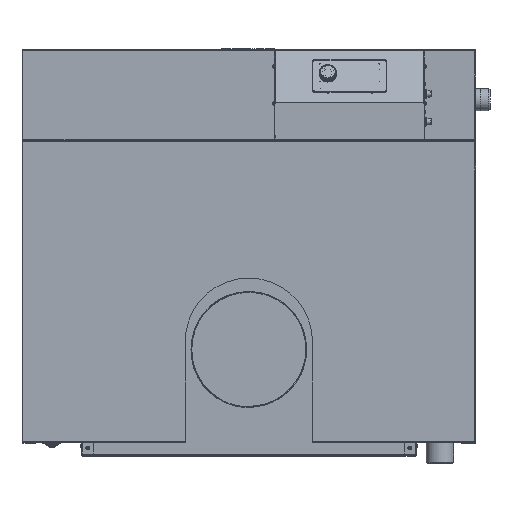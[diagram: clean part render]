
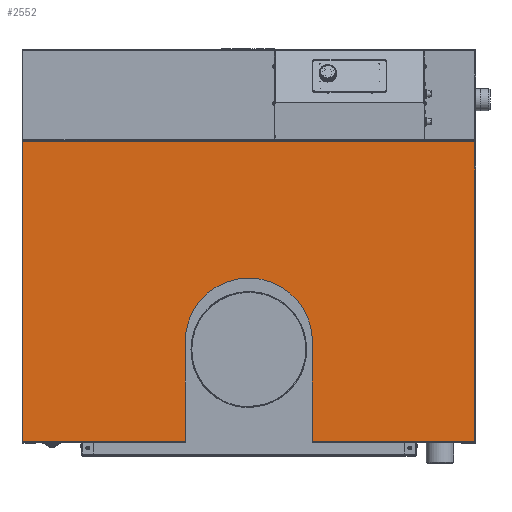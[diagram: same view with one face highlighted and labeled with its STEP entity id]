
A CAD part, top view. The second image highlights one B-rep face of the part: STEP entity #2552.
In plain terms, the highlighted planar face has unit normal (0, 0, 1).
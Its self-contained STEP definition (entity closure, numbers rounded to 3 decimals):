
#2552=ADVANCED_FACE('',(#24342),#24344,.T.);
#24342=FACE_BOUND('',#24343,.T.);
#24343=EDGE_LOOP('',(#57587,#57588,#57589,#57590,#57591,#57592,#57593,#57594));
#24344=PLANE('',#24345);
#24345=AXIS2_PLACEMENT_3D('',#24346,#24347,#24348);
#24346=CARTESIAN_POINT('',(0.,-39.,1065.4));
#24347=DIRECTION('',(0.,0.,1.));
#24348=DIRECTION('',(1.,0.,0.));
#57587=ORIENTED_EDGE('',*,*,#73883,.T.);
#57588=ORIENTED_EDGE('',*,*,#73893,.T.);
#57589=ORIENTED_EDGE('',*,*,#73880,.T.);
#57590=ORIENTED_EDGE('',*,*,#73874,.T.);
#57591=ORIENTED_EDGE('',*,*,#73993,.T.);
#57592=ORIENTED_EDGE('',*,*,#73994,.T.);
#57593=ORIENTED_EDGE('',*,*,#73995,.T.);
#57594=ORIENTED_EDGE('',*,*,#73869,.T.);
#73869=EDGE_CURVE('',#88486,#88489,#88978,.T.);
#73874=EDGE_CURVE('',#88452,#88465,#88983,.T.);
#73880=EDGE_CURVE('',#88990,#88452,#88991,.F.);
#73883=EDGE_CURVE('',#88489,#88993,#88995,.F.);
#73893=EDGE_CURVE('',#88993,#88990,#89011,.F.);
#73993=EDGE_CURVE('',#88465,#89180,#89181,.T.);
#73994=EDGE_CURVE('',#89180,#89182,#89183,.T.);
#73995=EDGE_CURVE('',#89182,#88486,#89184,.T.);
#88452=VERTEX_POINT('',#122685);
#88465=VERTEX_POINT('',#122716);
#88486=VERTEX_POINT('',#122782);
#88489=VERTEX_POINT('',#122807);
#88978=LINE('',#126337,#126338);
#88983=LINE('',#126352,#126353);
#88990=VERTEX_POINT('',#126372);
#88991=LINE('',#126373,#126374);
#88993=VERTEX_POINT('',#126379);
#88995=LINE('',#126383,#126384);
#89011=CIRCLE('',#126479,137.5);
#89180=VERTEX_POINT('',#126956);
#89181=LINE('',#126957,#126958);
#89182=VERTEX_POINT('',#126960);
#89183=LINE('',#126961,#126962);
#89184=LINE('',#126964,#126965);
#122685=CARTESIAN_POINT('',(137.5,-362.5,1065.4));
#122716=CARTESIAN_POINT('',(488.,-362.5,1065.4));
#122782=CARTESIAN_POINT('',(-488.,-362.5,1065.4));
#122807=CARTESIAN_POINT('',(-137.5,-362.5,1065.4));
#126337=CARTESIAN_POINT('',(-488.,-362.5,1065.4));
#126338=VECTOR('',#126339,1.);
#126339=DIRECTION('',(1.,0.,0.));
#126352=CARTESIAN_POINT('',(137.5,-362.5,1065.4));
#126353=VECTOR('',#126354,1.);
#126354=DIRECTION('',(1.,0.,0.));
#126372=CARTESIAN_POINT('',(137.5,-147.,1065.4));
#126373=CARTESIAN_POINT('',(137.5,-362.5,1065.4));
#126374=VECTOR('',#126375,1.);
#126375=DIRECTION('',(0.,1.,0.));
#126379=CARTESIAN_POINT('',(-137.5,-147.,1065.4));
#126383=CARTESIAN_POINT('',(-137.5,-147.,1065.4));
#126384=VECTOR('',#126385,1.);
#126385=DIRECTION('',(0.,-1.,0.));
#126479=AXIS2_PLACEMENT_3D('',#126480,#126481,#126482);
#126480=CARTESIAN_POINT('',(0.,-147.,1065.4));
#126481=DIRECTION('',(-0.,0.,1.));
#126482=DIRECTION('',(1.,0.,0.));
#126956=CARTESIAN_POINT('',(488.,284.5,1065.4));
#126957=CARTESIAN_POINT('',(488.,-362.5,1065.4));
#126958=VECTOR('',#126959,1.);
#126959=DIRECTION('',(0.,1.,0.));
#126960=CARTESIAN_POINT('',(-488.,284.5,1065.4));
#126961=CARTESIAN_POINT('',(488.,284.5,1065.4));
#126962=VECTOR('',#126963,1.);
#126963=DIRECTION('',(-1.,0.,0.));
#126964=CARTESIAN_POINT('',(-488.,284.5,1065.4));
#126965=VECTOR('',#126966,1.);
#126966=DIRECTION('',(0.,-1.,0.));
